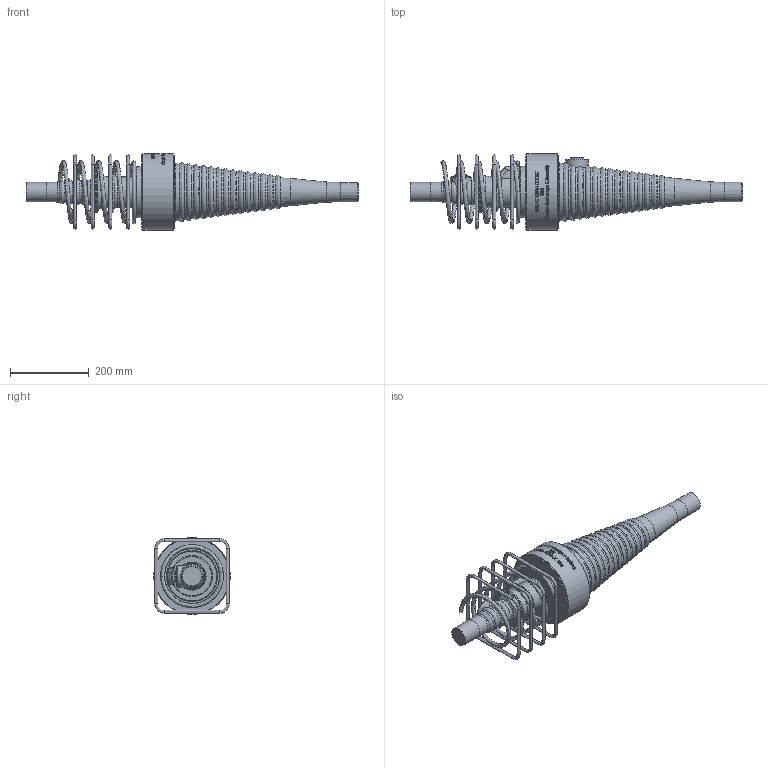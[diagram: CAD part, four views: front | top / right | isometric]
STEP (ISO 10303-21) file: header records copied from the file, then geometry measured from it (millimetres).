
FILE_DESCRIPTION(/* description */ (''),/* implementation_level */ '2;1');
FILE_NAME(/* name */ 'Z:\04 Publications\05 Give-out\BBR\6_3D_Models\BBR VT CONA CMI\BBR VT CONA CMI BT\00206\BBR VT CONA CMI BT 206_Couler K Assembly_CS-34,28.stp',/* time_stamp */ '2017-05-04T10:53:07+02:00',/* author */ ('IP'),/* organization */ (''),/* preprocessor_version */ 'ST-DEVELOPER v16.1',/* originating_system */ 'Autodesk Inventor 2016',/* authorisation */ '');
FILE_SCHEMA (('AUTOMOTIVE_DESIGN { 1 0 10303 214 3 1 1 }'));
Products named in the file (1): BBR VT CONA CMI BT 206_Couler K Assembly_CS-34,28
Bounding box: 845.07 x 194.26 x 194.73 mm (x, y, z)
Volume: 4391984.9 mm3; surface area: 642336.3 mm2
Topology: 7 solids, 7 shells, 1009 faces, 2547 edges, 1607 vertices
Faces by surface type: bspline 454, plane 256, torus 143, cylinder 99, cone 45, sphere 12
Full cylindrical faces by diameter (mm): 8 x16, 32 x1, 34.158 x1, 49 x1, 50 x1, 55 x1, 57 x1, 104 x2, 130 x1, 192 x1, 195 x1
Entity records: 43005 total; most frequent: CARTESIAN_POINT 21843, ORIENTED_EDGE 4712, DIRECTION 3155, EDGE_CURVE 2356, VERTEX_POINT 1595, EDGE_LOOP 1253, AXIS2_PLACEMENT_3D 1149, FACE_OUTER_BOUND 1009
